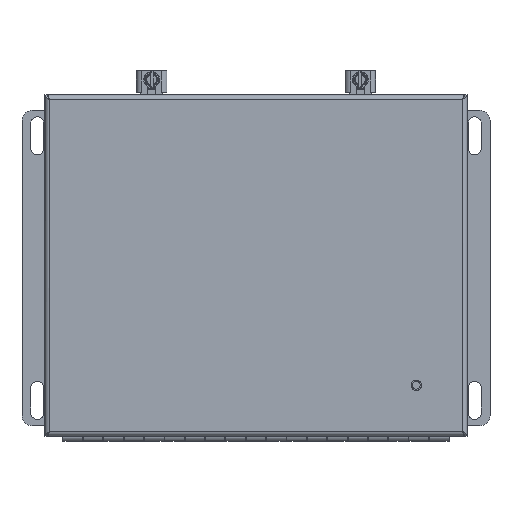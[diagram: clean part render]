
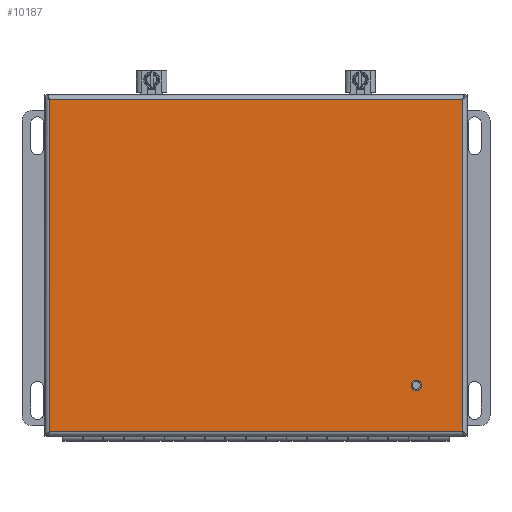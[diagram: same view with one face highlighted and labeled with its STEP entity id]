
A CAD part, top view. The second image highlights one B-rep face of the part: STEP entity #10187.
In plain terms, the highlighted planar face has unit normal (0, 0, 1) as drawn and (0, 0, -1) by its records, which use the part's own axes.
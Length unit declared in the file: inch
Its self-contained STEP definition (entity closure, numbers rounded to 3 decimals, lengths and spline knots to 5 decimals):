
#8760=DIRECTION('',(0.,-1.,0.));
#8761=VECTOR('',#8760,8.161);
#8762=CARTESIAN_POINT('',(10.263,-0.01211,0.));
#8763=LINE('',#8762,#8761);
#8795=CARTESIAN_POINT('',(1.25,-7.03511,0.));
#8796=DIRECTION('',(0.,0.,-1.));
#8797=DIRECTION('',(0.,-1.,0.));
#8798=AXIS2_PLACEMENT_3D('',#8795,#8796,#8797);
#8803=CARTESIAN_POINT('',(1.25,-7.03511,0.));
#8804=DIRECTION('',(0.,0.,-1.));
#8805=DIRECTION('',(0.,1.,0.));
#8806=AXIS2_PLACEMENT_3D('',#8803,#8804,#8805);
#9027=DIRECTION('',(1.,0.,0.));
#9028=VECTOR('',#9027,10.151);
#9029=CARTESIAN_POINT('',(0.112,-8.17311,0.));
#9030=LINE('',#9029,#9028);
#9083=DIRECTION('',(0.,-1.,0.));
#9084=VECTOR('',#9083,8.161);
#9085=CARTESIAN_POINT('',(0.112,-0.01211,0.));
#9086=LINE('',#9085,#9084);
#9204=DIRECTION('',(1.,0.,0.));
#9205=VECTOR('',#9204,10.151);
#9206=CARTESIAN_POINT('',(0.112,-0.01211,0.));
#9207=LINE('',#9206,#9205);
#9532=CARTESIAN_POINT('',(0.112,-0.01211,0.));
#9533=CARTESIAN_POINT('',(10.263,-0.01211,0.));
#9534=VERTEX_POINT('',#9532);
#9535=VERTEX_POINT('',#9533);
#9548=CARTESIAN_POINT('',(0.112,-8.17311,0.));
#9549=CARTESIAN_POINT('',(10.263,-8.17311,0.));
#9550=VERTEX_POINT('',#9548);
#9551=VERTEX_POINT('',#9549);
#9560=CARTESIAN_POINT('',(1.25,-7.13316,0.));
#9561=CARTESIAN_POINT('',(1.25,-6.93706,0.));
#9562=VERTEX_POINT('',#9560);
#9563=VERTEX_POINT('',#9561);
#10167=CARTESIAN_POINT('',(0.,0.09989,0.));
#10168=DIRECTION('',(0.,0.,-1.));
#10169=DIRECTION('',(1.,0.,0.));
#10170=AXIS2_PLACEMENT_3D('',#10167,#10168,#10169);
#10171=PLANE('',#10170);
#10172=ORIENTED_EDGE('',*,*,#10157,.F.);
#10174=ORIENTED_EDGE('',*,*,#10173,.F.);
#10176=ORIENTED_EDGE('',*,*,#10175,.T.);
#10178=ORIENTED_EDGE('',*,*,#10177,.T.);
#10179=EDGE_LOOP('',(#10172,#10174,#10176,#10178));
#10180=FACE_OUTER_BOUND('',#10179,.F.);
#10182=ORIENTED_EDGE('',*,*,#10181,.T.);
#10184=ORIENTED_EDGE('',*,*,#10183,.T.);
#10185=EDGE_LOOP('',(#10182,#10184));
#10186=FACE_BOUND('',#10185,.F.);
#8799=CIRCLE('',#8798,0.09805);
#8807=CIRCLE('',#8806,0.09805);
#10157=EDGE_CURVE('',#9535,#9551,#8763,.T.);
#10173=EDGE_CURVE('',#9534,#9535,#9207,.T.);
#10175=EDGE_CURVE('',#9534,#9550,#9086,.T.);
#10177=EDGE_CURVE('',#9550,#9551,#9030,.T.);
#10181=EDGE_CURVE('',#9562,#9563,#8799,.T.);
#10183=EDGE_CURVE('',#9563,#9562,#8807,.T.);
#10187=ADVANCED_FACE('',(#10180,#10186),#10171,.T.);
